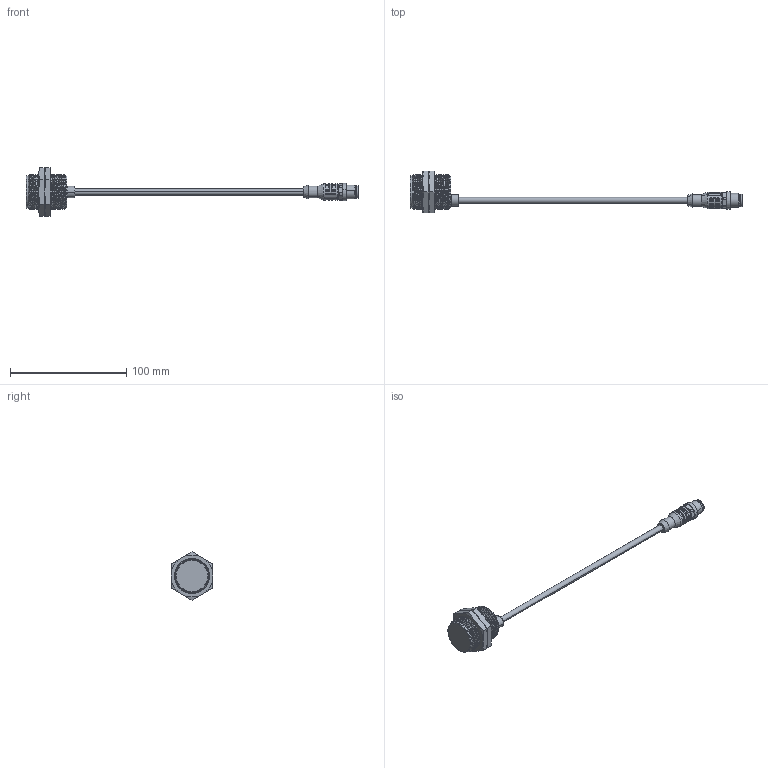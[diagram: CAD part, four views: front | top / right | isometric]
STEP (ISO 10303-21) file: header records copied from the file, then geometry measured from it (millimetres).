
FILE_DESCRIPTION((''),'2;1');
FILE_NAME('6490653377_SW0001','2025-01-08T11:46:05',('Rudolf.Poettker'),(''),'CREO PARAMETRIC BY PTC INC, 2022124','CREO PARAMETRIC BY PTC INC, 2022124','');
FILE_SCHEMA(('AUTOMOTIVE_DESIGN { 1 0 10303 214 1 1 1 1 }'));
Products named in the file (1): 6490653377_SW0001
Bounding box: 285 x 36 x 41.57 mm (x, y, z)
Volume: 37479.4 mm3; surface area: 13288 mm2
Topology: 1 solids, 1 shells, 428 faces, 1073 edges, 667 vertices
Faces by surface type: cylinder 122, plane 114, bspline 54, torus 51, cone 45, extrusion 32, sphere 10
Entity records: 42817 total; most frequent: CARTESIAN_POINT 26199, ORIENTED_EDGE 2122, DIRECTION 1754, PRESENTATION_STYLE_ASSIGNMENT 1526, STYLED_ITEM 1098, CURVE_STYLE 1097, EDGE_CURVE 1061, AXIS2_PLACEMENT_3D 677
